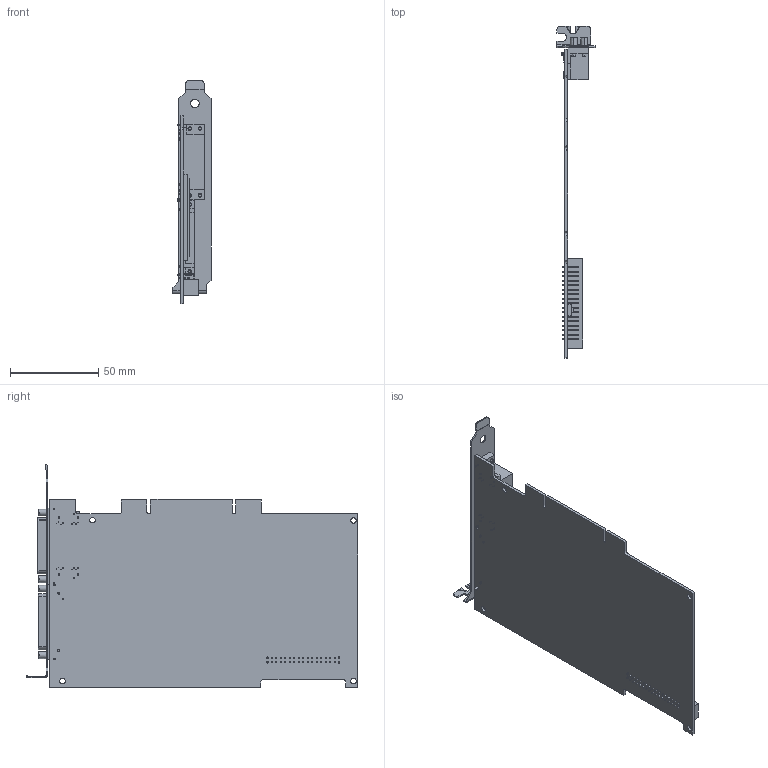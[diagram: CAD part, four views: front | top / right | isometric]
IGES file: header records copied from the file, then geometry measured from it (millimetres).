
Start section:  PTC IGES file: cu_pci-7831r_7833r.igs
Global section: file name: cu_pci-7831r_7833r.igs; native system: Pro/ENGINEER by Parametric Technology Corporation; preprocessor: 2010230; author: dkendric; organization: Unknown; date: 20110809.152228; units: inch
Bounding box: 21.59 x 187.77 x 126.21 mm (x, y, z)
Surface area: 47957.8 mm2 (no closed solid volume)
Topology: 0 solids, 0 shells, 1078 faces, 5822 edges, 5822 vertices
Faces by surface type: bspline 812, revolution 266
